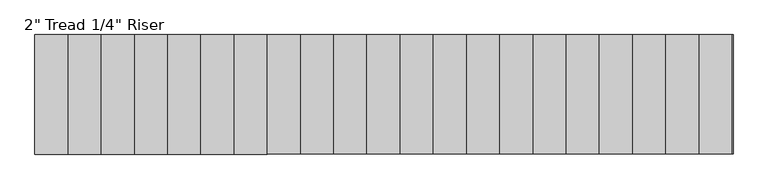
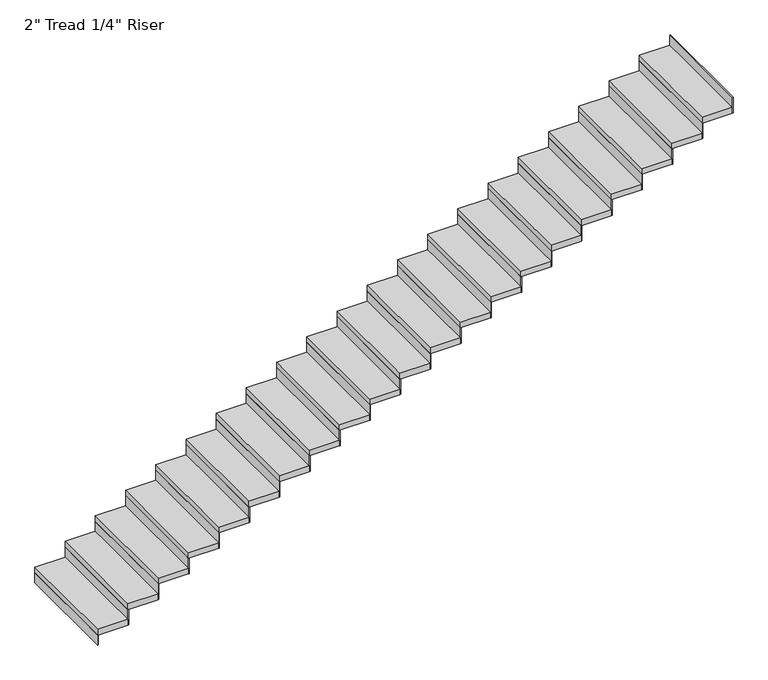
"""IFC4 building model written with IfcOpenShell, lengths in millimetres: stair flight geometry."""

from ifc_helpers import new_model, si_unit, frame, origin, origin_with_axes, place, context, project, spatial, polyline, outline, extrude, source, transform, mapped, element, save


def stair_flight_2d0f6cab(model_context):
    return source(origin(), model_context, "Body", "SweptSolid", [
        extrude(outline(polyline([(60465.2405484, 15846.0395941), (60458.8905484, 15846.0395941), (60458.8905484, 16760.4395941), (60465.2405484, 16760.4395941), (60465.2405484, 15846.0395941)])), origin_with_axes(), (0.0, 0.0, 1.0), 87.7454545),
        extrude(outline(polyline([(60712.8905484, 16760.4395941), (60712.8905484, 15846.0395941), (60458.8905484, 15846.0395941), (60458.8905484, 16760.4395941), (60712.8905484, 16760.4395941)])), frame((0.0, 0.0, 87.7454545), z_axis=(0.0, 0.0, 1.0), x_axis=(1.0, 0.0, 0.0)), (0.0, 0.0, 1.0), 50.8),
        extrude(outline(polyline([(60719.2405484, 15846.0395941), (60712.8905484, 15846.0395941), (60712.8905484, 16760.4395941), (60719.2405484, 16760.4395941), (60719.2405484, 15846.0395941)])), frame((0.0, 0.0, 87.7454545), z_axis=(0.0, 0.0, 1.0), x_axis=(1.0, 0.0, 0.0)), (0.0, 0.0, 1.0), 138.5454545),
        extrude(outline(polyline([(60966.8905484, 16760.4395941), (60966.8905484, 15846.0395941), (60712.8905484, 15846.0395941), (60712.8905484, 16760.4395941), (60966.8905484, 16760.4395941)])), frame((0.0, 0.0, 226.2909091), z_axis=(0.0, 0.0, 1.0), x_axis=(1.0, 0.0, 0.0)), (0.0, 0.0, 1.0), 50.8),
        extrude(outline(polyline([(60973.2405484, 15846.0395941), (60966.8905484, 15846.0395941), (60966.8905484, 16760.4395941), (60973.2405484, 16760.4395941), (60973.2405484, 15846.0395941)])), frame((0.0, 0.0, 226.2909091), z_axis=(0.0, 0.0, 1.0), x_axis=(1.0, 0.0, 0.0)), (0.0, 0.0, 1.0), 138.5454545),
        extrude(outline(polyline([(61220.8905484, 16760.4395941), (61220.8905484, 15846.0395941), (60966.8905484, 15846.0395941), (60966.8905484, 16760.4395941), (61220.8905484, 16760.4395941)])), frame((0.0, 0.0, 364.8363636), z_axis=(0.0, 0.0, 1.0), x_axis=(1.0, 0.0, 0.0)), (0.0, 0.0, 1.0), 50.8),
        extrude(outline(polyline([(61227.2405484, 15846.0395941), (61220.8905484, 15846.0395941), (61220.8905484, 16760.4395941), (61227.2405484, 16760.4395941), (61227.2405484, 15846.0395941)])), frame((0.0, 0.0, 364.8363636), z_axis=(0.0, 0.0, 1.0), x_axis=(1.0, 0.0, 0.0)), (0.0, 0.0, 1.0), 138.5454545),
        extrude(outline(polyline([(61474.8905484, 16760.4395941), (61474.8905484, 15846.0395941), (61220.8905484, 15846.0395941), (61220.8905484, 16760.4395941), (61474.8905484, 16760.4395941)])), frame((0.0, 0.0, 503.3818182), z_axis=(0.0, 0.0, 1.0), x_axis=(1.0, 0.0, 0.0)), (0.0, 0.0, 1.0), 50.8),
        extrude(outline(polyline([(61481.2405484, 15846.0395941), (61474.8905484, 15846.0395941), (61474.8905484, 16760.4395941), (61481.2405484, 16760.4395941), (61481.2405484, 15846.0395941)])), frame((0.0, 0.0, 503.3818182), z_axis=(0.0, 0.0, 1.0), x_axis=(1.0, 0.0, 0.0)), (0.0, 0.0, 1.0), 138.5454545),
        extrude(outline(polyline([(61728.8905484, 16760.4395941), (61728.8905484, 15846.0395941), (61474.8905484, 15846.0395941), (61474.8905484, 16760.4395941), (61728.8905484, 16760.4395941)])), frame((0.0, 0.0, 641.9272727), z_axis=(0.0, 0.0, 1.0), x_axis=(1.0, 0.0, 0.0)), (0.0, 0.0, 1.0), 50.8),
        extrude(outline(polyline([(61735.2405484, 15846.0395941), (61728.8905484, 15846.0395941), (61728.8905484, 16760.4395941), (61735.2405484, 16760.4395941), (61735.2405484, 15846.0395941)])), frame((0.0, 0.0, 641.9272727), z_axis=(0.0, 0.0, 1.0), x_axis=(1.0, 0.0, 0.0)), (0.0, 0.0, 1.0), 138.5454545),
        extrude(outline(polyline([(61982.8905484, 16760.4395941), (61982.8905484, 15846.0395941), (61728.8905484, 15846.0395941), (61728.8905484, 16760.4395941), (61982.8905484, 16760.4395941)])), frame((0.0, 0.0, 780.4727273), z_axis=(0.0, 0.0, 1.0), x_axis=(1.0, 0.0, 0.0)), (0.0, 0.0, 1.0), 50.8),
        extrude(outline(polyline([(61989.2405484, 15846.0395941), (61982.8905484, 15846.0395941), (61982.8905484, 16760.4395941), (61989.2405484, 16760.4395941), (61989.2405484, 15846.0395941)])), frame((0.0, 0.0, 780.4727273), z_axis=(0.0, 0.0, 1.0), x_axis=(1.0, 0.0, 0.0)), (0.0, 0.0, 1.0), 138.5454545),
        extrude(outline(polyline([(62236.8905484, 16760.4395941), (62236.8905484, 15846.0395941), (61982.8905484, 15846.0395941), (61982.8905484, 16760.4395941), (62236.8905484, 16760.4395941)])), frame((0.0, 0.0, 919.0181818), z_axis=(0.0, 0.0, 1.0), x_axis=(1.0, 0.0, 0.0)), (0.0, 0.0, 1.0), 50.8),
        extrude(outline(polyline([(62243.2405484, 15846.0395941), (62236.8905484, 15846.0395941), (62236.8905484, 16760.4395941), (62243.2405484, 16760.4395941), (62243.2405484, 15846.0395941)])), frame((0.0, 0.0, 919.0181818), z_axis=(0.0, 0.0, 1.0), x_axis=(1.0, 0.0, 0.0)), (0.0, 0.0, 1.0), 138.5454545),
        extrude(outline(polyline([(62490.8905484, 16760.4395941), (62490.8905484, 15846.0395941), (62236.8905484, 15846.0395941), (62236.8905484, 16760.4395941), (62490.8905484, 16760.4395941)])), frame((0.0, 0.0, 1057.5636364), z_axis=(0.0, 0.0, 1.0), x_axis=(1.0, 0.0, 0.0)), (0.0, 0.0, 1.0), 50.8),
        extrude(outline(polyline([(62497.2405484, 15846.0395941), (62490.8905484, 15846.0395941), (62490.8905484, 16760.4395941), (62497.2405484, 16760.4395941), (62497.2405484, 15846.0395941)])), frame((0.0, 0.0, 1057.5636364), z_axis=(0.0, 0.0, 1.0), x_axis=(1.0, 0.0, 0.0)), (0.0, 0.0, 1.0), 138.5454545),
        extrude(outline(polyline([(62744.8905484, 16760.4395941), (62744.8905484, 15846.0395941), (62490.8905484, 15846.0395941), (62490.8905484, 16760.4395941), (62744.8905484, 16760.4395941)])), frame((0.0, 0.0, 1196.1090909), z_axis=(0.0, 0.0, 1.0), x_axis=(1.0, 0.0, 0.0)), (0.0, 0.0, 1.0), 50.8),
        extrude(outline(polyline([(62751.2405484, 15846.0395941), (62744.8905484, 15846.0395941), (62744.8905484, 16760.4395941), (62751.2405484, 16760.4395941), (62751.2405484, 15846.0395941)])), frame((0.0, 0.0, 1196.1090909), z_axis=(0.0, 0.0, 1.0), x_axis=(1.0, 0.0, 0.0)), (0.0, 0.0, 1.0), 138.5454545),
        extrude(outline(polyline([(62998.8905484, 16760.4395941), (62998.8905484, 15846.0395941), (62744.8905484, 15846.0395941), (62744.8905484, 16760.4395941), (62998.8905484, 16760.4395941)])), frame((0.0, 0.0, 1334.6545455), z_axis=(0.0, 0.0, 1.0), x_axis=(1.0, 0.0, 0.0)), (0.0, 0.0, 1.0), 50.8),
        extrude(outline(polyline([(63005.2405484, 15846.0395941), (62998.8905484, 15846.0395941), (62998.8905484, 16760.4395941), (63005.2405484, 16760.4395941), (63005.2405484, 15846.0395941)])), frame((0.0, 0.0, 1334.6545455), z_axis=(0.0, 0.0, 1.0), x_axis=(1.0, 0.0, 0.0)), (0.0, 0.0, 1.0), 138.5454545),
        extrude(outline(polyline([(63252.8905484, 16760.4395941), (63252.8905484, 15846.0395941), (62998.8905484, 15846.0395941), (62998.8905484, 16760.4395941), (63252.8905484, 16760.4395941)])), frame((0.0, 0.0, 1473.2), z_axis=(0.0, 0.0, 1.0), x_axis=(1.0, 0.0, 0.0)), (0.0, 0.0, 1.0), 50.8),
        extrude(outline(polyline([(63259.2405484, 15846.0395941), (63252.8905484, 15846.0395941), (63252.8905484, 16760.4395941), (63259.2405484, 16760.4395941), (63259.2405484, 15846.0395941)])), frame((0.0, 0.0, 1473.2), z_axis=(0.0, 0.0, 1.0), x_axis=(1.0, 0.0, 0.0)), (0.0, 0.0, 1.0), 138.5454545),
        extrude(outline(polyline([(63506.8905484, 16760.4395941), (63506.8905484, 15846.0395941), (63252.8905484, 15846.0395941), (63252.8905484, 16760.4395941), (63506.8905484, 16760.4395941)])), frame((0.0, 0.0, 1611.7454545), z_axis=(0.0, 0.0, 1.0), x_axis=(1.0, 0.0, 0.0)), (0.0, 0.0, 1.0), 50.8),
        extrude(outline(polyline([(63513.2405484, 15846.0395941), (63506.8905484, 15846.0395941), (63506.8905484, 16760.4395941), (63513.2405484, 16760.4395941), (63513.2405484, 15846.0395941)])), frame((0.0, 0.0, 1611.7454545), z_axis=(0.0, 0.0, 1.0), x_axis=(1.0, 0.0, 0.0)), (0.0, 0.0, 1.0), 138.5454545),
        extrude(outline(polyline([(63760.8905484, 16760.4395941), (63760.8905484, 15846.0395941), (63506.8905484, 15846.0395941), (63506.8905484, 16760.4395941), (63760.8905484, 16760.4395941)])), frame((0.0, 0.0, 1750.2909091), z_axis=(0.0, 0.0, 1.0), x_axis=(1.0, 0.0, 0.0)), (0.0, 0.0, 1.0), 50.8),
        extrude(outline(polyline([(63767.2405484, 15846.0395941), (63760.8905484, 15846.0395941), (63760.8905484, 16760.4395941), (63767.2405484, 16760.4395941), (63767.2405484, 15846.0395941)])), frame((0.0, 0.0, 1750.2909091), z_axis=(0.0, 0.0, 1.0), x_axis=(1.0, 0.0, 0.0)), (0.0, 0.0, 1.0), 138.5454545),
        extrude(outline(polyline([(64014.8905484, 16760.4395941), (64014.8905484, 15846.0395941), (63760.8905484, 15846.0395941), (63760.8905484, 16760.4395941), (64014.8905484, 16760.4395941)])), frame((0.0, 0.0, 1888.8363636), z_axis=(0.0, 0.0, 1.0), x_axis=(1.0, 0.0, 0.0)), (0.0, 0.0, 1.0), 50.8),
        extrude(outline(polyline([(64021.2405484, 15846.0395941), (64014.8905484, 15846.0395941), (64014.8905484, 16760.4395941), (64021.2405484, 16760.4395941), (64021.2405484, 15846.0395941)])), frame((0.0, 0.0, 1888.8363636), z_axis=(0.0, 0.0, 1.0), x_axis=(1.0, 0.0, 0.0)), (0.0, 0.0, 1.0), 138.5454545),
        extrude(outline(polyline([(64268.8905484, 16760.4395941), (64268.8905484, 15846.0395941), (64014.8905484, 15846.0395941), (64014.8905484, 16760.4395941), (64268.8905484, 16760.4395941)])), frame((0.0, 0.0, 2027.3818182), z_axis=(0.0, 0.0, 1.0), x_axis=(1.0, 0.0, 0.0)), (0.0, 0.0, 1.0), 50.8),
        extrude(outline(polyline([(64275.2405484, 15846.0395941), (64268.8905484, 15846.0395941), (64268.8905484, 16760.4395941), (64275.2405484, 16760.4395941), (64275.2405484, 15846.0395941)])), frame((0.0, 0.0, 2027.3818182), z_axis=(0.0, 0.0, 1.0), x_axis=(1.0, 0.0, 0.0)), (0.0, 0.0, 1.0), 138.5454545),
        extrude(outline(polyline([(64522.8905484, 16760.4395941), (64522.8905484, 15846.0395941), (64268.8905484, 15846.0395941), (64268.8905484, 16760.4395941), (64522.8905484, 16760.4395941)])), frame((0.0, 0.0, 2165.9272727), z_axis=(0.0, 0.0, 1.0), x_axis=(1.0, 0.0, 0.0)), (0.0, 0.0, 1.0), 50.8),
        extrude(outline(polyline([(64529.2405484, 15846.0395941), (64522.8905484, 15846.0395941), (64522.8905484, 16760.4395941), (64529.2405484, 16760.4395941), (64529.2405484, 15846.0395941)])), frame((0.0, 0.0, 2165.9272727), z_axis=(0.0, 0.0, 1.0), x_axis=(1.0, 0.0, 0.0)), (0.0, 0.0, 1.0), 138.5454545),
        extrude(outline(polyline([(64776.8905484, 16760.4395941), (64776.8905484, 15846.0395941), (64522.8905484, 15846.0395941), (64522.8905484, 16760.4395941), (64776.8905484, 16760.4395941)])), frame((0.0, 0.0, 2304.4727273), z_axis=(0.0, 0.0, 1.0), x_axis=(1.0, 0.0, 0.0)), (0.0, 0.0, 1.0), 50.8),
        extrude(outline(polyline([(64783.2405484, 15846.0395941), (64776.8905484, 15846.0395941), (64776.8905484, 16760.4395941), (64783.2405484, 16760.4395941), (64783.2405484, 15846.0395941)])), frame((0.0, 0.0, 2304.4727273), z_axis=(0.0, 0.0, 1.0), x_axis=(1.0, 0.0, 0.0)), (0.0, 0.0, 1.0), 138.5454545),
        extrude(outline(polyline([(65030.8905484, 16760.4395941), (65030.8905484, 15846.0395941), (64776.8905484, 15846.0395941), (64776.8905484, 16760.4395941), (65030.8905484, 16760.4395941)])), frame((0.0, 0.0, 2443.0181818), z_axis=(0.0, 0.0, 1.0), x_axis=(1.0, 0.0, 0.0)), (0.0, 0.0, 1.0), 50.8),
        extrude(outline(polyline([(65037.2405484, 15846.0395941), (65030.8905484, 15846.0395941), (65030.8905484, 16760.4395941), (65037.2405484, 16760.4395941), (65037.2405484, 15846.0395941)])), frame((0.0, 0.0, 2443.0181818), z_axis=(0.0, 0.0, 1.0), x_axis=(1.0, 0.0, 0.0)), (0.0, 0.0, 1.0), 138.5454545),
        extrude(outline(polyline([(65284.8905484, 16760.4395941), (65284.8905484, 15846.0395941), (65030.8905484, 15846.0395941), (65030.8905484, 16760.4395941), (65284.8905484, 16760.4395941)])), frame((0.0, 0.0, 2581.5636364), z_axis=(0.0, 0.0, 1.0), x_axis=(1.0, 0.0, 0.0)), (0.0, 0.0, 1.0), 50.8),
        extrude(outline(polyline([(65291.2405484, 15846.0395941), (65284.8905484, 15846.0395941), (65284.8905484, 16760.4395941), (65291.2405484, 16760.4395941), (65291.2405484, 15846.0395941)])), frame((0.0, 0.0, 2581.5636364), z_axis=(0.0, 0.0, 1.0), x_axis=(1.0, 0.0, 0.0)), (0.0, 0.0, 1.0), 138.5454545),
        extrude(outline(polyline([(65538.8905484, 16760.4395941), (65538.8905484, 15846.0395941), (65284.8905484, 15846.0395941), (65284.8905484, 16760.4395941), (65538.8905484, 16760.4395941)])), frame((0.0, 0.0, 2720.1090909), z_axis=(0.0, 0.0, 1.0), x_axis=(1.0, 0.0, 0.0)), (0.0, 0.0, 1.0), 50.8),
        extrude(outline(polyline([(65545.2405484, 15846.0395941), (65538.8905484, 15846.0395941), (65538.8905484, 16760.4395941), (65545.2405484, 16760.4395941), (65545.2405484, 15846.0395941)])), frame((0.0, 0.0, 2720.1090909), z_axis=(0.0, 0.0, 1.0), x_axis=(1.0, 0.0, 0.0)), (0.0, 0.0, 1.0), 138.5454545),
        extrude(outline(polyline([(65799.2405484, 15846.0395941), (65792.8905484, 15846.0395941), (65792.8905484, 16760.4395941), (65799.2405484, 16760.4395941), (65799.2405484, 15846.0395941)])), frame((0.0, 0.0, 2858.6545455), z_axis=(0.0, 0.0, 1.0), x_axis=(1.0, 0.0, 0.0)), (0.0, 0.0, 1.0), 138.5454545),
        extrude(outline(polyline([(65792.8905484, 16760.4395941), (65792.8905484, 15846.0395941), (65538.8905484, 15846.0395941), (65538.8905484, 16760.4395941), (65792.8905484, 16760.4395941)])), frame((0.0, 0.0, 2858.6545455), z_axis=(0.0, 0.0, 1.0), x_axis=(1.0, 0.0, 0.0)), (0.0, 0.0, 1.0), 50.8),
    ])


if __name__ == "__main__":
    model = new_model("IFC4")
    model_context = context("Model", 3, world=origin())
    ifc_project = project(units=[si_unit("LENGTHUNIT", "METRE", prefix="MILLI")], contexts=[model_context])
    site = spatial("IfcSite", under=ifc_project)
    building = spatial("IfcBuilding", under=site)
    placement = place(None, origin())
    stair_flight_shape = stair_flight_2d0f6cab(model_context)
    element("IfcStairFlight", 1, ObjectType="2\" Tread 1/4\" Riser", at=placement, inside=building, context=model_context, shape_type="MappedRepresentation", body=[
        mapped(stair_flight_shape, transform((0.0, 0.0, 0.0), x_axis=(1.0, 0.0, 0.0), y_axis=(0.0, 1.0, 0.0), z_axis=(0.0, 0.0, 1.0))),
    ])
    save(model, "model.ifc")
